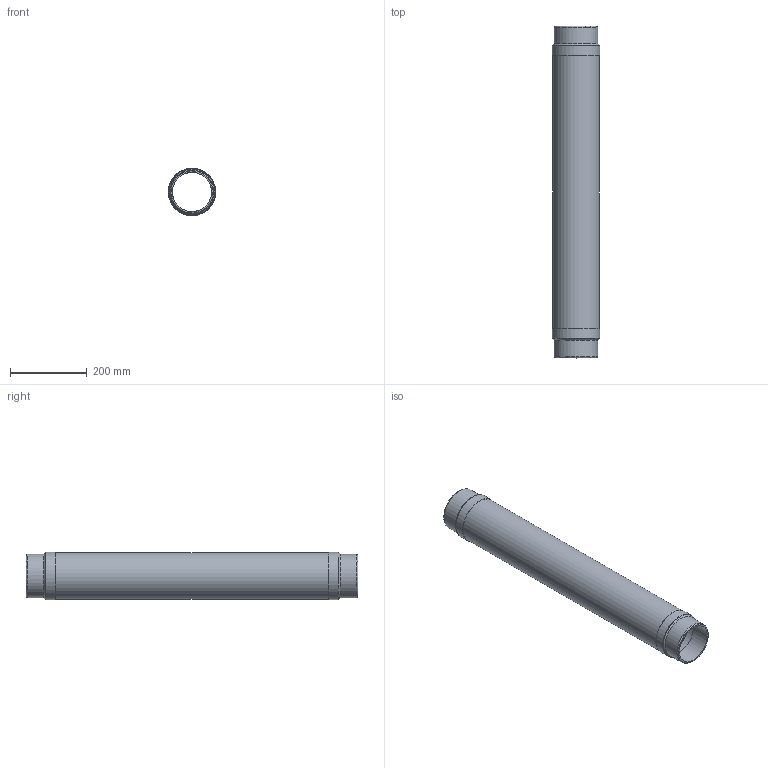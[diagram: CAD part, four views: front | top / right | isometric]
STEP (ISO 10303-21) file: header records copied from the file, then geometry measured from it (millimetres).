
FILE_DESCRIPTION(/* description */ (''),/* implementation_level */ '2;1');
FILE_NAME(/* name */ 'C:\001_Work\Designs\CSAWN\CSAWN-4x34.stp',/* time_stamp */ '2016-06-04T18:36:26-04:00',/* author */ ('rramoutar'),/* organization */ ('Mason Industries Inc.'),/* preprocessor_version */ 'ST-DEVELOPER v15.6',/* originating_system */ 'Autodesk Inventor 2015',/* authorisation */ '');
FILE_SCHEMA (('CONFIG_CONTROL_DESIGN'));
Length unit declared in the file: inch
Products named in the file (1): CSAWN-4x34
Bounding box: 123 x 863.6 x 123 mm (x, y, z)
Volume: 352619.6 mm3; surface area: 697871.1 mm2
Topology: 5 solids, 5 shells, 24 faces, 40 edges, 26 vertices
Faces by surface type: cylinder 10, plane 10, cone 4
Full cylindrical faces by diameter (mm): 102.26 x2, 114.3 x2, 119.888 x1, 120.701 x3, 123.082 x2
Entity records: 564 total; most frequent: DIRECTION 98, CARTESIAN_POINT 73, AXIS2_PLACEMENT_3D 49, EDGE_LOOP 48, ORIENTED_EDGE 48, STYLED_ITEM 29, FACE_BOUND 24, FACE_OUTER_BOUND 24
